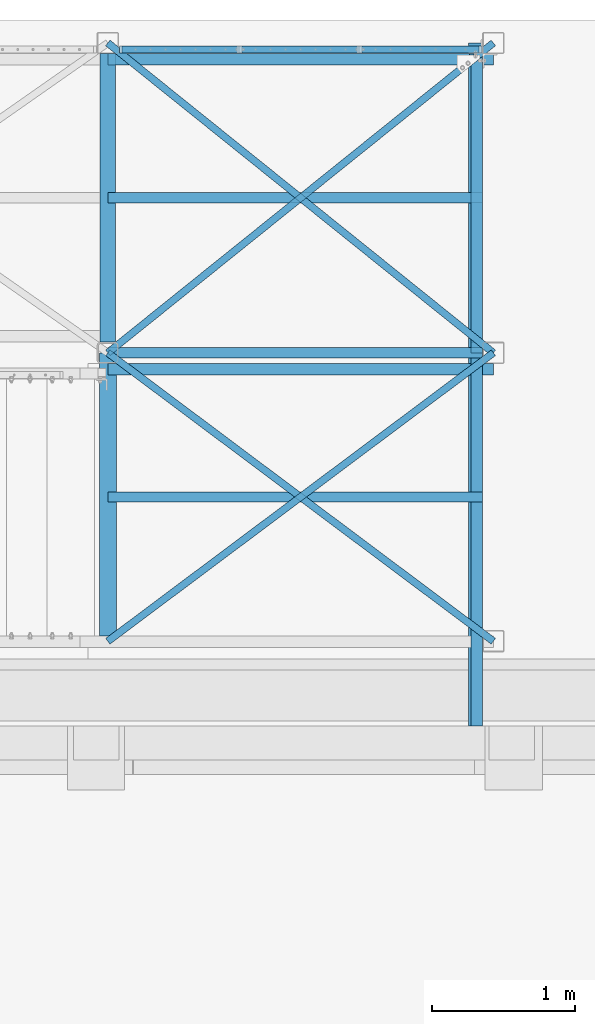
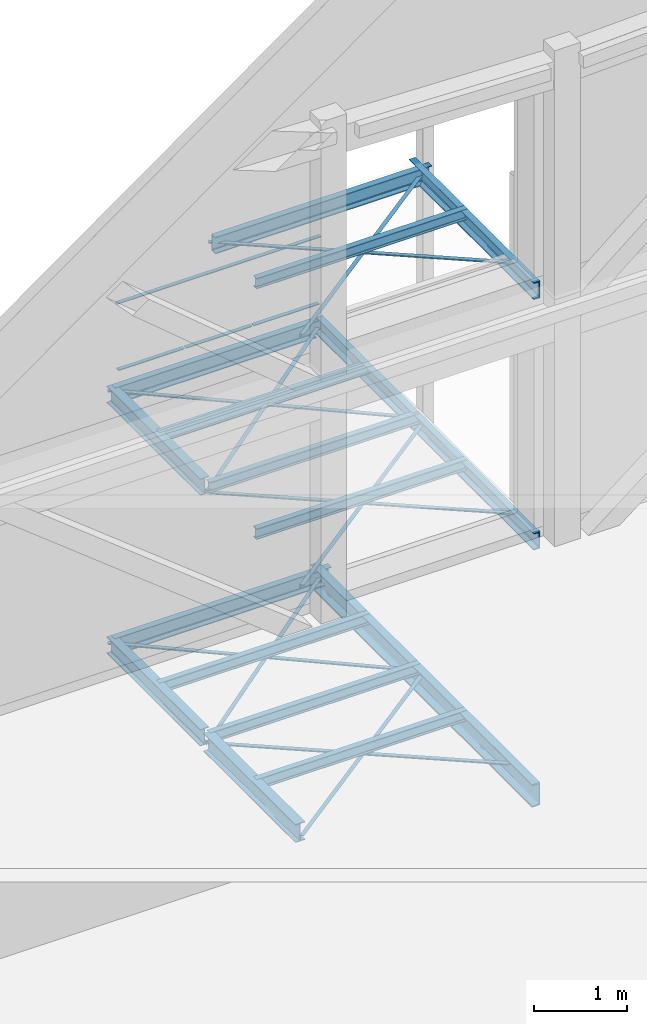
# One storey, part 33 of 78: 30 beams, 29 elements without a shape of their own.
"""IFC2X3 building model written with IfcOpenShell, lengths in millimetres."""

from ifc_helpers import new_model, si_unit, frame, origin_with_axes, origin_2d_with_axis, place, context, subcontext, project, spatial, polyline, rectangle, i_section, l_section, u_section, outline, extrude, boolean, clip, halfspace, material, type_object, element, aggregate, save


model = new_model("IFC2X3")

# Units and contexts
model_context = context("Model", 3, precision=1e-05, world=origin_with_axes())
body_context = subcontext(model_context, "Body", "Model", "MODEL_VIEW")
ifc_project = project(units=[si_unit("LENGTHUNIT", "METRE", prefix="MILLI"), si_unit("AREAUNIT", "SQUARE_METRE"), si_unit("VOLUMEUNIT", "CUBIC_METRE"), si_unit("MASSUNIT", "GRAM", prefix="KILO"), si_unit("TIMEUNIT", "SECOND"), si_unit("PLANEANGLEUNIT", "RADIAN"), si_unit("SOLIDANGLEUNIT", "STERADIAN"), si_unit("THERMODYNAMICTEMPERATUREUNIT", "DEGREE_CELSIUS"), si_unit("LUMINOUSINTENSITYUNIT", "LUMEN")], contexts=[model_context])

# Site, building, storey
site_placement = place(None, origin_with_axes())
site = spatial("IfcSite", under=ifc_project, at=site_placement, Name="Site", CompositionType="ELEMENT")
building_placement = place(site_placement, origin_with_axes())
building = spatial("IfcBuilding", under=site, at=building_placement, Name="Undefined", CompositionType="ELEMENT")
storey_placement = place(building_placement, origin_with_axes())
storey = spatial("IfcBuildingStorey", under=building, at=storey_placement, Name="Undefined", CompositionType="ELEMENT", Elevation=0.0)

# Assembly, beam
assembly_1_placement = place(storey_placement, origin_with_axes())
assembly_1 = element("IfcElementAssembly", 1, at=assembly_1_placement, inside=storey, Name="POUTRE", AssemblyPlace="NOTDEFINED", PredefinedType="RIGID_FRAME")
ifc_material_1 = material(Name="STEEL/S275JR")
beam_type_1 = type_object("IfcBeamType", Name="UPN220", PredefinedType="NOTDEFINED")
beam_1_placement = place(assembly_1_placement, frame((4083.57, 30748.0, 156560.04), z_axis=(0.0, 0.0, 1.0), x_axis=(0.0, -1.0, 0.0)))
beam_1 = element("IfcBeam", 2, at=beam_1_placement, type_object=beam_type_1, material=ifc_material_1, Name="POUTRE", ObjectType="UPN220", context=body_context, shape_type="SweptSolid", body=[
    extrude(u_section(Depth=220.0, FlangeWidth=80.0, WebThickness=9.0, FlangeThickness=12.5, FilletRadius=12.5, EdgeRadius=6.5, FlangeSlope=0.0798299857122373, at=origin_2d_with_axis()), frame((2613.00000000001, 0.0, 0.0), z_axis=(-1.0, 0.0, 0.0), x_axis=(0.0, -1.0, 0.0)), (0.0, 0.0, 1.0), 2613.0),
])
aggregate(assembly_1, [beam_1])

assembly_2_placement = place(storey_placement, origin_with_axes())
assembly_2 = element("IfcElementAssembly", 3, at=assembly_2_placement, inside=storey, Name="POUTRE", AssemblyPlace="NOTDEFINED", PredefinedType="RIGID_FRAME")
beam_2_placement = place(assembly_2_placement, frame((1498.56999999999, 30633.0, 159860.04), z_axis=(0.0, 0.0, 1.0), x_axis=(1.0, 0.0, 0.0)))
beam_2 = element("IfcBeam", 4, at=beam_2_placement, type_object=beam_type_1, material=ifc_material_1, Name="POUTRE", ObjectType="UPN220", context=body_context, shape_type="SweptSolid", body=[
    extrude(u_section(Depth=220.0, FlangeWidth=80.0, WebThickness=9.0, FlangeThickness=12.5, FilletRadius=12.5, EdgeRadius=6.5, FlangeSlope=0.0798299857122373, at=origin_2d_with_axis()), frame((2699.99999999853, 0.0, 0.0), z_axis=(-1.0, 0.0, 0.0), x_axis=(0.0, -1.0, 0.0)), (0.0, 0.0, 1.0), 2700.0),
])
aggregate(assembly_2, [beam_2])

assembly_3_placement = place(storey_placement, origin_with_axes())
assembly_3 = element("IfcElementAssembly", 5, at=assembly_3_placement, inside=storey, Name="POUTRE", AssemblyPlace="NOTDEFINED", PredefinedType="RIGID_FRAME")
beam_3_placement = place(assembly_3_placement, frame((4083.57, 30823.0, 159860.04), z_axis=(0.0, 0.0, 1.0), x_axis=(0.0, -1.0, 0.0)))
beam_3 = element("IfcBeam", 6, at=beam_3_placement, type_object=beam_type_1, material=ifc_material_1, Name="POUTRE", ObjectType="UPN220", context=body_context, shape_type="SweptSolid", body=[
    extrude(u_section(Depth=220.0, FlangeWidth=80.0, WebThickness=9.0, FlangeThickness=12.5, FilletRadius=12.5, EdgeRadius=6.5, FlangeSlope=0.0798299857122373, at=origin_2d_with_axis()), frame((2688.0, 0.0, 0.0), z_axis=(-1.0, 0.0, 0.0), x_axis=(0.0, -1.0, 0.0)), (0.0, 0.0, 1.0), 2688.0),
])
aggregate(assembly_3, [beam_3])

assembly_4_placement = place(storey_placement, origin_with_axes())
assembly_4 = element("IfcElementAssembly", 7, at=assembly_4_placement, inside=storey, Name="POUTRE", AssemblyPlace="NOTDEFINED", PredefinedType="RIGID_FRAME")
beam_4_placement = place(assembly_4_placement, frame((4083.57, 32918.0, 156560.04), z_axis=(0.0, 0.0, 1.0), x_axis=(0.0, -1.0, 0.0)))
beam_4 = element("IfcBeam", 8, at=beam_4_placement, type_object=beam_type_1, material=ifc_material_1, Name="POUTRE", ObjectType="UPN220", context=body_context, shape_type="Clipping", body=[
    clip(extrude(u_section(Depth=220.0, FlangeWidth=80.0, WebThickness=9.0, FlangeThickness=12.5, FilletRadius=12.5, EdgeRadius=6.5, FlangeSlope=0.0798299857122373, at=origin_2d_with_axis()), frame((2169.99999999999, 0.0, 0.0), z_axis=(-1.0, 0.0, 0.0), x_axis=(0.0, -1.0, 0.0)), (0.0, 0.0, 1.0), 2170.0), halfspace(frame((85.0, 40.0, -190.0), z_axis=(-1.0, 0.0, 0.0), x_axis=(0.0, 0.0, 1.0)), False)),
])
aggregate(assembly_4, [beam_4])

assembly_5_placement = place(storey_placement, origin_with_axes())
assembly_5 = element("IfcElementAssembly", 9, at=assembly_5_placement, inside=storey, Name="POUTRE", AssemblyPlace="NOTDEFINED", PredefinedType="RIGID_FRAME")
beam_5_placement = place(assembly_5_placement, frame((1498.57, 32803.0, 156560.04), z_axis=(0.0, 0.0, 1.0), x_axis=(1.0, 0.0, 0.0)))
beam_5 = element("IfcBeam", 10, at=beam_5_placement, type_object=beam_type_1, material=ifc_material_1, Name="POUTRE", ObjectType="UPN220", context=body_context, shape_type="CSG", body=[
    boolean("DIFFERENCE", boolean("DIFFERENCE", boolean("DIFFERENCE", boolean("DIFFERENCE", extrude(u_section(Depth=220.0, FlangeWidth=80.0, WebThickness=9.0, FlangeThickness=12.5, FilletRadius=12.5, EdgeRadius=6.5, FlangeSlope=0.0798299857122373, at=origin_2d_with_axis()), frame((2699.99999999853, 0.0, 0.0), z_axis=(-1.0, 0.0, 0.0), x_axis=(0.0, -1.0, 0.0)), (0.0, 0.0, 1.0), 2700.0), extrude(outline(polyline([(0.0, 0.0), (82.0, 0.0), (82.0, 34.0), (0.0, 34.0), (0.0, 0.0)])), frame((2616.0, 50.0, -86.0), z_axis=(0.0, -1.0, 0.0), x_axis=(-1.0, 0.0, 0.0)), (0.0, 0.0, 1.0), 100.0)), extrude(outline(polyline([(0.0, 0.0), (100.0, 0.0), (99.9999999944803, 76.0000000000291), (2.91038304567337e-11, 76.0000000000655), (0.0, 0.0)])), frame((2515.99999999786, -45.0003378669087, -113.999835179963), z_axis=(-1.18205317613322e-10, 3.2963000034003e-05, 0.99999999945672), x_axis=(0.99999999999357, 3.58599998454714e-06, 0.0)), (0.0, 0.0, 1.0), 25.0)), extrude(outline(polyline([(0.0, 0.0), (82.0, 0.0), (82.0, 34.0), (0.0, 34.0), (0.0, 0.0)])), frame((2616.0, -50.0, 86.0), z_axis=(0.0, 1.0, 0.0), x_axis=(-1.0, 0.0, 0.0)), (0.0, 0.0, 1.0), 100.0)), halfspace(frame((2606.0, 0.0, 1000.0), z_axis=(1.0, 0.0, 0.0), x_axis=(0.0, 1.0, 0.0)), False)),
])
aggregate(assembly_5, [beam_5])

assembly_6_placement = place(storey_placement, origin_with_axes())
assembly_6 = element("IfcElementAssembly", 11, at=assembly_6_placement, inside=storey, Name="STAB", AssemblyPlace="NOTDEFINED", PredefinedType="RIGID_FRAME")
beam_6_placement = place(assembly_6_placement, frame((1498.57, 32803.0, 153260.04), z_axis=(0.0, 0.0, 1.0), x_axis=(1.0, 0.0, 0.0)))
beam_6 = element("IfcBeam", 12, at=beam_6_placement, type_object=beam_type_1, material=ifc_material_1, Name="POUTRE", ObjectType="UPN220", context=body_context, shape_type="SweptSolid", body=[
    extrude(u_section(Depth=220.0, FlangeWidth=80.0, WebThickness=9.0, FlangeThickness=12.5, FilletRadius=12.5, EdgeRadius=6.5, FlangeSlope=0.0798299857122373, at=origin_2d_with_axis()), frame((2699.99999999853, 0.0, 0.0), z_axis=(-1.0, 0.0, 0.0), x_axis=(0.0, -1.0, 0.0)), (0.0, 0.0, 1.0), 2700.0),
])
aggregate(assembly_6, [beam_6])

assembly_7_placement = place(storey_placement, origin_with_axes())
assembly_7 = element("IfcElementAssembly", 13, at=assembly_7_placement, inside=storey, Name="POUTRE", AssemblyPlace="NOTDEFINED", PredefinedType="RIGID_FRAME")
beam_type_2 = type_object("IfcBeamType", Name="UPN300", PredefinedType="NOTDEFINED")
beam_7_placement = place(assembly_7_placement, frame((4073.57, 30748.0, 153220.04), z_axis=(0.0, 0.0, 1.0), x_axis=(0.0, -1.0, 0.0)))
beam_7 = element("IfcBeam", 14, at=beam_7_placement, type_object=beam_type_2, material=ifc_material_1, Name="POUTRE", ObjectType="UPN300", context=body_context, shape_type="SweptSolid", body=[
    extrude(u_section(Depth=300.0, FlangeWidth=100.0, WebThickness=10.0, FlangeThickness=16.0, FilletRadius=16.0, EdgeRadius=8.0, FlangeSlope=0.0798299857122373, at=origin_2d_with_axis()), frame((2613.00000000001, 0.0, 0.0), z_axis=(-1.0, 0.0, 0.0), x_axis=(0.0, -1.0, 0.0)), (0.0, 0.0, 1.0), 2613.0),
])
aggregate(assembly_7, [beam_7])

assembly_8_placement = place(storey_placement, origin_with_axes())
assembly_8 = element("IfcElementAssembly", 15, at=assembly_8_placement, inside=storey, Name="POUTRE", AssemblyPlace="NOTDEFINED", PredefinedType="RIGID_FRAME")
beam_8_placement = place(assembly_8_placement, frame((4073.57, 32918.0, 153220.04), z_axis=(0.0, 0.0, 1.0), x_axis=(0.0, -1.0, 0.0)))
beam_8 = element("IfcBeam", 16, at=beam_8_placement, type_object=beam_type_2, material=ifc_material_1, Name="POUTRE", ObjectType="UPN300", context=body_context, shape_type="SweptSolid", body=[
    extrude(u_section(Depth=300.0, FlangeWidth=100.0, WebThickness=10.0, FlangeThickness=16.0, FilletRadius=16.0, EdgeRadius=8.0, FlangeSlope=0.0798299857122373, at=origin_2d_with_axis()), frame((2169.99999999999, 0.0, 0.0), z_axis=(-1.0, 0.0, 0.0), x_axis=(0.0, -1.0, 0.0)), (0.0, 0.0, 1.0), 2170.0),
])
aggregate(assembly_8, [beam_8])

# Assembly, beams
assembly_9_placement = place(storey_placement, origin_with_axes())
assembly_9 = element("IfcElementAssembly", 17, at=assembly_9_placement, inside=storey, Name="MAIN_COURANTE", AssemblyPlace="NOTDEFINED", PredefinedType="RIGID_FRAME")
ifc_material_2 = material(Name="STEEL/S235JR")
beam_type_3 = type_object("IfcBeamType", Name="PL10*50", PredefinedType="NOTDEFINED")
beam_9_placement = place(assembly_9_placement, frame((1578.57000000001, 32872.9999999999, 156815.04), z_axis=(0.0, -1.0, 0.0), x_axis=(1.0, 0.0, 0.0)))
solid_1 = boolean("DIFFERENCE", boolean("DIFFERENCE", extrude(rectangle(XDim=20.0, YDim=50.0, at=origin_2d_with_axis()), frame((10.0000000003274, 885.0, -2.18278728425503e-10), z_axis=(0.0, -1.0, 0.0), x_axis=(1.0, 0.0, 0.0)), (0.0, 0.0, 1.0), 1190.0), halfspace(frame((10.0000000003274, 875.0, -2.18278728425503e-11), z_axis=(0.0, 1.0, 0.0), x_axis=(0.0, 0.0, -1.0)), False)), halfspace(frame((-999.999999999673, -305.0, -2.18278728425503e-10), z_axis=(0.0, 1.0, 0.0), x_axis=(0.0, 0.0, -1.0)), True))
solid_2 = boolean("DIFFERENCE", boolean("DIFFERENCE", extrude(rectangle(XDim=20.0, YDim=50.0, at=origin_2d_with_axis()), frame((850.000000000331, 885.0, -2.18278728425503e-10), z_axis=(0.0, -1.0, 0.0), x_axis=(1.0, 0.0, 0.0)), (0.0, 0.0, 1.0), 1190.0), halfspace(frame((850.000000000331, 875.0, -2.18278728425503e-11), z_axis=(0.0, 1.0, 0.0), x_axis=(0.0, 0.0, -1.0)), False)), halfspace(frame((-159.999999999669, -305.0, -2.18278728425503e-10), z_axis=(0.0, 1.0, 0.0), x_axis=(0.0, 0.0, -1.0)), True))
solid_3 = boolean("DIFFERENCE", boolean("DIFFERENCE", extrude(rectangle(XDim=20.0, YDim=50.0, at=origin_2d_with_axis()), frame((1690.00000000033, 885.0, -2.25554686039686e-10), z_axis=(0.0, -1.0, 0.0), x_axis=(1.0, 0.0, 0.0)), (0.0, 0.0, 1.0), 1190.0), halfspace(frame((1690.00000000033, 875.0, -3.63797880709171e-11), z_axis=(0.0, 1.0, 0.0), x_axis=(0.0, 0.0, -1.0)), False)), halfspace(frame((680.000000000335, -305.0, -2.25554686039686e-10), z_axis=(0.0, 1.0, 0.0), x_axis=(0.0, 0.0, -1.0)), True))
solid_4 = boolean("DIFFERENCE", extrude(rectangle(XDim=20.0, YDim=50.0, at=origin_2d_with_axis()), frame((2530.00000000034, 885.0, -2.18278728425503e-10), z_axis=(0.0, -1.0, 0.0), x_axis=(1.0, 0.0, 0.0)), (0.0, 0.0, 1.0), 1030.0), halfspace(frame((2530.00000000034, 875.0, -3.63797880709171e-11), z_axis=(0.0, 1.0, 0.0), x_axis=(0.0, 0.0, -1.0)), False))
beam_9 = element("IfcBeam", 18, at=beam_9_placement, type_object=beam_type_3, material=ifc_material_2, Name="LISSE", ObjectType="PL10*50", context=body_context, shape_type="CSG", body=[
    boolean("DIFFERENCE", boolean("DIFFERENCE", boolean("DIFFERENCE", boolean("DIFFERENCE", extrude(rectangle(XDim=10.0, YDim=50.0, at=origin_2d_with_axis()), frame((2540.00000000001, 0.0, 0.0), z_axis=(-1.0, 0.0, 0.0), x_axis=(0.0, -1.0, 0.0)), (0.0, 0.0, 1.0), 2540.0), solid_1), solid_2), solid_3), solid_4),
])
beam_10_placement = place(assembly_9_placement, frame((4118.57, 32872.9999999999, 157695.04), z_axis=(0.0, -1.0, 0.0), x_axis=(-1.0, 0.0, 0.0)))
beam_10 = element("IfcBeam", 19, at=beam_10_placement, type_object=beam_type_3, material=ifc_material_2, Name="MAIN_COURANTE", ObjectType="PL10*50", context=body_context, shape_type="SweptSolid", body=[
    extrude(rectangle(XDim=10.0, YDim=50.0, at=origin_2d_with_axis()), frame((2540.00000000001, 0.0, 0.0), z_axis=(-1.0, 0.0, 0.0), x_axis=(0.0, -1.0, 0.0)), (0.0, 0.0, 1.0), 2540.0),
])
aggregate(assembly_9, [beam_9, beam_10])

# Assembly, beam
assembly_10_placement = place(storey_placement, origin_with_axes())
assembly_10 = element("IfcElementAssembly", 20, at=assembly_10_placement, inside=storey, Name="STAB", AssemblyPlace="NOTDEFINED", PredefinedType="RIGID_FRAME")
beam_type_4 = type_object("IfcBeamType", Name="L50*5", PredefinedType="NOTDEFINED")
beam_11_placement = place(assembly_10_placement, frame((4198.56999999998, 30748.0, 159805.04), z_axis=(0.0, 0.0, -1.0), x_axis=(-0.80071118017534, -0.599050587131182, 0.0)))
beam_11 = element("IfcBeam", 21, at=beam_11_placement, type_object=beam_type_4, material=ifc_material_2, Name="STAB", ObjectType="L50*5", context=body_context, shape_type="SweptSolid", body=[
    extrude(l_section(Depth=50.0, Width=50.0, Thickness=5.0, FilletRadius=7.0, EdgeRadius=3.5, at=origin_2d_with_axis()), frame((3372.00237247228, 1.87183733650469e-13, 0.0), z_axis=(-1.0, 0.0, 0.0), x_axis=(0.0, -1.0, 0.0)), (0.0, 0.0, 1.0), 3372.0),
])
aggregate(assembly_10, [beam_11])

assembly_11_placement = place(storey_placement, origin_with_axes())
assembly_11 = element("IfcElementAssembly", 22, at=assembly_11_placement, inside=storey, Name="STAB", AssemblyPlace="NOTDEFINED", PredefinedType="RIGID_FRAME")
beam_12_placement = place(assembly_11_placement, frame((4198.57000000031, 28727.9999999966, 159805.04), z_axis=(0.0, 0.0, -1.0), x_axis=(-0.800711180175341, 0.599050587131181, 0.0)))
beam_12 = element("IfcBeam", 23, at=beam_12_placement, type_object=beam_type_4, material=ifc_material_2, Name="STAB", ObjectType="L50*5", context=body_context, shape_type="SweptSolid", body=[
    extrude(l_section(Depth=50.0, Width=50.0, Thickness=5.0, FilletRadius=7.0, EdgeRadius=3.5, at=origin_2d_with_axis()), frame((3372.00237247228, 1.87183733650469e-13, 0.0), z_axis=(-1.0, 0.0, 0.0), x_axis=(0.0, -1.0, 0.0)), (0.0, 0.0, 1.0), 3372.0),
])
aggregate(assembly_11, [beam_12])

assembly_12_placement = place(storey_placement, origin_with_axes())
assembly_12 = element("IfcElementAssembly", 24, at=assembly_12_placement, inside=storey, Name="STAB", AssemblyPlace="NOTDEFINED", PredefinedType="RIGID_FRAME")
beam_13_placement = place(assembly_12_placement, frame((4198.56999999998, 30748.0, 156505.04), z_axis=(0.0, 0.0, -1.0), x_axis=(-0.80071118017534, -0.599050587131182, 0.0)))
beam_13 = element("IfcBeam", 25, at=beam_13_placement, type_object=beam_type_4, material=ifc_material_2, Name="STAB", ObjectType="L50*5", context=body_context, shape_type="SweptSolid", body=[
    extrude(l_section(Depth=50.0, Width=50.0, Thickness=5.0, FilletRadius=7.0, EdgeRadius=3.5, at=origin_2d_with_axis()), frame((3372.00237247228, 1.87183733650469e-13, 0.0), z_axis=(-1.0, 0.0, 0.0), x_axis=(0.0, -1.0, 0.0)), (0.0, 0.0, 1.0), 3372.0),
])
aggregate(assembly_12, [beam_13])

assembly_13_placement = place(storey_placement, origin_with_axes())
assembly_13 = element("IfcElementAssembly", 26, at=assembly_13_placement, inside=storey, Name="STAB", AssemblyPlace="NOTDEFINED", PredefinedType="RIGID_FRAME")
beam_14_placement = place(assembly_13_placement, frame((4198.57000000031, 28727.9999999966, 156505.04), z_axis=(0.0, 0.0, -1.0), x_axis=(-0.800711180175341, 0.599050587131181, 0.0)))
beam_14 = element("IfcBeam", 27, at=beam_14_placement, type_object=beam_type_4, material=ifc_material_2, Name="STAB", ObjectType="L50*5", context=body_context, shape_type="SweptSolid", body=[
    extrude(l_section(Depth=50.0, Width=50.0, Thickness=5.0, FilletRadius=7.0, EdgeRadius=3.5, at=origin_2d_with_axis()), frame((3372.00237247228, 1.87183733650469e-13, 0.0), z_axis=(-1.0, 0.0, 0.0), x_axis=(0.0, -1.0, 0.0)), (0.0, 0.0, 1.0), 3372.0),
])
aggregate(assembly_13, [beam_14])

assembly_14_placement = place(storey_placement, origin_with_axes())
assembly_14 = element("IfcElementAssembly", 28, at=assembly_14_placement, inside=storey, Name="STAB", AssemblyPlace="NOTDEFINED", PredefinedType="RIGID_FRAME")
beam_15_placement = place(assembly_14_placement, frame((4198.57000000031, 30747.9999999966, 156532.04), z_axis=(0.0, 0.0, -1.0), x_axis=(-0.779458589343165, 0.626453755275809, 0.0)))
beam_15 = element("IfcBeam", 29, at=beam_15_placement, type_object=beam_type_4, material=ifc_material_2, Name="STAB", ObjectType="L50*5", context=body_context, shape_type="SweptSolid", body=[
    extrude(l_section(Depth=50.0, Width=50.0, Thickness=5.0, FilletRadius=7.0, EdgeRadius=3.5, at=origin_2d_with_axis()), frame((3463.94284017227, 0.0, 2.91038304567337e-11), z_axis=(-1.0, 0.0, 0.0), x_axis=(0.0, -1.0, 0.0)), (0.0, 0.0, 1.0), 3463.94),
])
aggregate(assembly_14, [beam_15])

assembly_15_placement = place(storey_placement, origin_with_axes())
assembly_15 = element("IfcElementAssembly", 30, at=assembly_15_placement, inside=storey, Name="STAB", AssemblyPlace="NOTDEFINED", PredefinedType="RIGID_FRAME")
beam_16_placement = place(assembly_15_placement, frame((4198.56999999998, 32918.0, 156532.04), z_axis=(0.0, 0.0, -1.0), x_axis=(-0.779458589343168, -0.626453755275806, 0.0)))
beam_16 = element("IfcBeam", 31, at=beam_16_placement, type_object=beam_type_4, material=ifc_material_2, Name="STAB", ObjectType="L50*5", context=body_context, shape_type="Clipping", body=[
    clip(extrude(l_section(Depth=50.0, Width=50.0, Thickness=5.0, FilletRadius=7.0, EdgeRadius=3.5, at=origin_2d_with_axis()), frame((3463.94284017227, 0.0, 2.91038304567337e-11), z_axis=(-1.0, 0.0, 0.0), x_axis=(0.0, -1.0, 0.0)), (0.0, 0.0, 1.0), 3463.94), halfspace(frame((197.11984116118, -1.09139364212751e-11, -25.0), z_axis=(1.0, 0.0, 0.0), x_axis=(0.0, 1.0, 0.0)), True)),
])
aggregate(assembly_15, [beam_16])

assembly_16_placement = place(storey_placement, origin_with_axes())
assembly_16 = element("IfcElementAssembly", 32, at=assembly_16_placement, inside=storey, Name="STAB", AssemblyPlace="NOTDEFINED", PredefinedType="RIGID_FRAME")
beam_17_placement = place(assembly_16_placement, frame((4198.56999999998, 30748.0, 153205.04), z_axis=(0.0, 0.0, -1.0), x_axis=(-0.80071118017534, -0.599050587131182, 0.0)))
beam_17 = element("IfcBeam", 33, at=beam_17_placement, type_object=beam_type_4, material=ifc_material_2, Name="STAB", ObjectType="L50*5", context=body_context, shape_type="SweptSolid", body=[
    extrude(l_section(Depth=50.0, Width=50.0, Thickness=5.0, FilletRadius=7.0, EdgeRadius=3.5, at=origin_2d_with_axis()), frame((3372.00237247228, 1.87183733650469e-13, 0.0), z_axis=(-1.0, 0.0, 0.0), x_axis=(0.0, -1.0, 0.0)), (0.0, 0.0, 1.0), 3372.0),
])
aggregate(assembly_16, [beam_17])

assembly_17_placement = place(storey_placement, origin_with_axes())
assembly_17 = element("IfcElementAssembly", 34, at=assembly_17_placement, inside=storey, Name="STAB", AssemblyPlace="NOTDEFINED", PredefinedType="RIGID_FRAME")
beam_18_placement = place(assembly_17_placement, frame((4198.57000000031, 28727.9999999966, 153205.04), z_axis=(0.0, 0.0, -1.0), x_axis=(-0.800711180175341, 0.599050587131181, 0.0)))
beam_18 = element("IfcBeam", 35, at=beam_18_placement, type_object=beam_type_4, material=ifc_material_2, Name="STAB", ObjectType="L50*5", context=body_context, shape_type="SweptSolid", body=[
    extrude(l_section(Depth=50.0, Width=50.0, Thickness=5.0, FilletRadius=7.0, EdgeRadius=3.5, at=origin_2d_with_axis()), frame((3372.00237247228, 1.87183733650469e-13, 0.0), z_axis=(-1.0, 0.0, 0.0), x_axis=(0.0, -1.0, 0.0)), (0.0, 0.0, 1.0), 3372.0),
])
aggregate(assembly_17, [beam_18])

assembly_18_placement = place(storey_placement, origin_with_axes())
assembly_18 = element("IfcElementAssembly", 36, at=assembly_18_placement, inside=storey, Name="STAB", AssemblyPlace="NOTDEFINED", PredefinedType="RIGID_FRAME")
beam_19_placement = place(assembly_18_placement, frame((4198.56999999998, 30748.0, 153205.04), z_axis=(0.0, 0.0, -1.0), x_axis=(-0.779458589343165, 0.626453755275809, 0.0)))
beam_19 = element("IfcBeam", 37, at=beam_19_placement, type_object=beam_type_4, material=ifc_material_2, Name="STAB", ObjectType="L50*5", context=body_context, shape_type="SweptSolid", body=[
    extrude(l_section(Depth=50.0, Width=50.0, Thickness=5.0, FilletRadius=7.0, EdgeRadius=3.5, at=origin_2d_with_axis()), frame((3463.94284017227, 0.0, 2.91038304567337e-11), z_axis=(-1.0, 0.0, 0.0), x_axis=(0.0, -1.0, 0.0)), (0.0, 0.0, 1.0), 3463.94),
])
aggregate(assembly_18, [beam_19])

assembly_19_placement = place(storey_placement, origin_with_axes())
assembly_19 = element("IfcElementAssembly", 38, at=assembly_19_placement, inside=storey, Name="STAB", AssemblyPlace="NOTDEFINED", PredefinedType="RIGID_FRAME")
beam_20_placement = place(assembly_19_placement, frame((4198.56999999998, 32918.0, 153205.04), z_axis=(0.0, 0.0, -1.0), x_axis=(-0.779458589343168, -0.626453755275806, 0.0)))
beam_20 = element("IfcBeam", 39, at=beam_20_placement, type_object=beam_type_4, material=ifc_material_2, Name="STAB", ObjectType="L50*5", context=body_context, shape_type="SweptSolid", body=[
    extrude(l_section(Depth=50.0, Width=50.0, Thickness=5.0, FilletRadius=7.0, EdgeRadius=3.5, at=origin_2d_with_axis()), frame((3463.94284017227, 0.0, 2.91038304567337e-11), z_axis=(-1.0, 0.0, 0.0), x_axis=(0.0, -1.0, 0.0)), (0.0, 0.0, 1.0), 3463.94),
])
aggregate(assembly_19, [beam_20])

assembly_20_placement = place(storey_placement, origin_with_axes())
assembly_20 = element("IfcElementAssembly", 40, at=assembly_20_placement, inside=storey, AssemblyPlace="NOTDEFINED", PredefinedType="RIGID_FRAME")
beam_type_5 = type_object("IfcBeamType", Name="IPE140", PredefinedType="NOTDEFINED")
beam_21_placement = place(assembly_20_placement, frame((4123.57, 29738.0, 159900.04), z_axis=(0.0, 0.0, 1.0), x_axis=(-1.0, 0.0, 0.0)))
beam_21 = element("IfcBeam", 41, at=beam_21_placement, type_object=beam_type_5, material=ifc_material_1, Name="SOLIVE", ObjectType="IPE140", context=body_context, shape_type="SweptSolid", body=[
    extrude(i_section(OverallWidth=73.0, OverallDepth=140.0, WebThickness=4.699999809, FlangeThickness=6.900000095, FilletRadius=7.0, at=origin_2d_with_axis()), frame((2625.0, 0.0, 0.0), z_axis=(-1.0, 0.0, 0.0), x_axis=(0.0, -1.0, 0.0)), (0.0, 0.0, 1.0), 2625.0),
])
aggregate(assembly_20, [beam_21])

assembly_21_placement = place(storey_placement, origin_with_axes())
assembly_21 = element("IfcElementAssembly", 42, at=assembly_21_placement, inside=storey, AssemblyPlace="NOTDEFINED", PredefinedType="RIGID_FRAME")
beam_22_placement = place(assembly_21_placement, frame((4123.57, 29738.0, 156600.04), z_axis=(0.0, 0.0, 1.0), x_axis=(-1.0, 0.0, 0.0)))
beam_22 = element("IfcBeam", 43, at=beam_22_placement, type_object=beam_type_5, material=ifc_material_1, Name="SOLIVE", ObjectType="IPE140", context=body_context, shape_type="SweptSolid", body=[
    extrude(i_section(OverallWidth=73.0, OverallDepth=140.0, WebThickness=4.699999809, FlangeThickness=6.900000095, FilletRadius=7.0, at=origin_2d_with_axis()), frame((2625.0, 0.0, 0.0), z_axis=(-1.0, 0.0, 0.0), x_axis=(0.0, -1.0, 0.0)), (0.0, 0.0, 1.0), 2625.0),
])
aggregate(assembly_21, [beam_22])

assembly_22_placement = place(storey_placement, origin_with_axes())
assembly_22 = element("IfcElementAssembly", 44, at=assembly_22_placement, inside=storey, Name="POUTRE", AssemblyPlace="NOTDEFINED", PredefinedType="RIGID_FRAME")
beam_23_placement = place(assembly_22_placement, frame((1498.57, 30748.0, 156600.04), z_axis=(0.0, 0.0, 1.0), x_axis=(1.0, 0.0, 0.0)))
beam_23 = element("IfcBeam", 45, at=beam_23_placement, type_object=beam_type_5, material=ifc_material_1, Name="POUTRE", ObjectType="IPE140", context=body_context, shape_type="SweptSolid", body=[
    extrude(i_section(OverallWidth=73.0, OverallDepth=140.0, WebThickness=4.699999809, FlangeThickness=6.900000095, FilletRadius=7.0, at=origin_2d_with_axis()), frame((2625.0, 0.0, 0.0), z_axis=(-1.0, 0.0, 0.0), x_axis=(0.0, -1.0, 0.0)), (0.0, 0.0, 1.0), 2625.0),
])
aggregate(assembly_22, [beam_23])

assembly_23_placement = place(storey_placement, origin_with_axes())
assembly_23 = element("IfcElementAssembly", 46, at=assembly_23_placement, inside=storey, Name="POUTRE", AssemblyPlace="NOTDEFINED", PredefinedType="RIGID_FRAME")
beam_24_placement = place(assembly_23_placement, frame((4123.57, 31833.0, 156600.04), z_axis=(0.0, 0.0, 1.0), x_axis=(-1.0, 0.0, 0.0)))
beam_24 = element("IfcBeam", 47, at=beam_24_placement, type_object=beam_type_5, material=ifc_material_1, Name="POUTRE", ObjectType="IPE140", context=body_context, shape_type="SweptSolid", body=[
    extrude(i_section(OverallWidth=73.0, OverallDepth=140.0, WebThickness=4.699999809, FlangeThickness=6.900000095, FilletRadius=7.0, at=origin_2d_with_axis()), frame((2625.0, 0.0, 0.0), z_axis=(-1.0, 0.0, 0.0), x_axis=(0.0, -1.0, 0.0)), (0.0, 0.0, 1.0), 2625.0),
])
aggregate(assembly_23, [beam_24])

assembly_24_placement = place(storey_placement, origin_with_axes())
assembly_24 = element("IfcElementAssembly", 48, at=assembly_24_placement, inside=storey, AssemblyPlace="NOTDEFINED", PredefinedType="RIGID_FRAME")
beam_25_placement = place(assembly_24_placement, frame((4123.57, 29738.0, 153300.04), z_axis=(0.0, 0.0, 1.0), x_axis=(-1.0, 0.0, 0.0)))
beam_25 = element("IfcBeam", 49, at=beam_25_placement, type_object=beam_type_5, material=ifc_material_1, Name="SOLIVE", ObjectType="IPE140", context=body_context, shape_type="SweptSolid", body=[
    extrude(i_section(OverallWidth=73.0, OverallDepth=140.0, WebThickness=4.699999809, FlangeThickness=6.900000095, FilletRadius=7.0, at=origin_2d_with_axis()), frame((2625.0, 0.0, 0.0), z_axis=(-1.0, 0.0, 0.0), x_axis=(0.0, -1.0, 0.0)), (0.0, 0.0, 1.0), 2625.0),
])
aggregate(assembly_24, [beam_25])

assembly_25_placement = place(storey_placement, origin_with_axes())
assembly_25 = element("IfcElementAssembly", 50, at=assembly_25_placement, inside=storey, Name="POUTRE", AssemblyPlace="NOTDEFINED", PredefinedType="RIGID_FRAME")
beam_26_placement = place(assembly_25_placement, frame((1498.57, 30748.0, 153300.04), z_axis=(0.0, 0.0, 1.0), x_axis=(1.0, 0.0, 0.0)))
beam_26 = element("IfcBeam", 51, at=beam_26_placement, type_object=beam_type_5, material=ifc_material_1, Name="POUTRE", ObjectType="IPE140", context=body_context, shape_type="SweptSolid", body=[
    extrude(i_section(OverallWidth=73.0, OverallDepth=140.0, WebThickness=4.699999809, FlangeThickness=6.900000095, FilletRadius=7.0, at=origin_2d_with_axis()), frame((2625.0, 0.0, 0.0), z_axis=(-1.0, 0.0, 0.0), x_axis=(0.0, -1.0, 0.0)), (0.0, 0.0, 1.0), 2625.0),
])
aggregate(assembly_25, [beam_26])

assembly_26_placement = place(storey_placement, origin_with_axes())
assembly_26 = element("IfcElementAssembly", 52, at=assembly_26_placement, inside=storey, Name="POUTRE", AssemblyPlace="NOTDEFINED", PredefinedType="RIGID_FRAME")
beam_27_placement = place(assembly_26_placement, frame((4123.57, 31833.0, 153300.04), z_axis=(0.0, 0.0, 1.0), x_axis=(-1.0, 0.0, 0.0)))
beam_27 = element("IfcBeam", 53, at=beam_27_placement, type_object=beam_type_5, material=ifc_material_1, Name="POUTRE", ObjectType="IPE140", context=body_context, shape_type="SweptSolid", body=[
    extrude(i_section(OverallWidth=73.0, OverallDepth=140.0, WebThickness=4.699999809, FlangeThickness=6.900000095, FilletRadius=7.0, at=origin_2d_with_axis()), frame((2625.0, 0.0, 0.0), z_axis=(-1.0, 0.0, 0.0), x_axis=(0.0, -1.0, 0.0)), (0.0, 0.0, 1.0), 2625.0),
])
aggregate(assembly_26, [beam_27])

assembly_27_placement = place(storey_placement, origin_with_axes())
assembly_27 = element("IfcElementAssembly", 54, at=assembly_27_placement, inside=storey, Name="CONSOLE", AssemblyPlace="NOTDEFINED", PredefinedType="RIGID_FRAME")
beam_type_6 = type_object("IfcBeamType", Name="IPE240", PredefinedType="NOTDEFINED")
beam_28_placement = place(assembly_27_placement, frame((1498.57, 30748.0, 153250.04), z_axis=(0.0, 0.0, 1.0), x_axis=(0.0, -1.0, 0.0)))
beam_28 = element("IfcBeam", 55, at=beam_28_placement, type_object=beam_type_6, material=ifc_material_1, Name="CONSOLE", ObjectType="IPE240", context=body_context, shape_type="SweptSolid", body=[
    extrude(i_section(OverallWidth=120.0, OverallDepth=240.0, WebThickness=6.199999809, FlangeThickness=9.800000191, FilletRadius=15.0, at=origin_2d_with_axis()), frame((1985.0, 0.0, 0.0), z_axis=(-1.0, 0.0, 0.0), x_axis=(0.0, -1.0, 0.0)), (0.0, 0.0, 1.0), 1985.0),
])
aggregate(assembly_27, [beam_28])

assembly_28_placement = place(storey_placement, origin_with_axes())
assembly_28 = element("IfcElementAssembly", 56, at=assembly_28_placement, inside=storey, Name="POUTRE", AssemblyPlace="NOTDEFINED", PredefinedType="RIGID_FRAME")
beam_type_7 = type_object("IfcBeamType", Name="IPE220", PredefinedType="NOTDEFINED")
beam_29_placement = place(assembly_28_placement, frame((1498.57, 32843.0, 156560.04), z_axis=(0.0, 0.0, 1.0), x_axis=(0.0, -1.0, 0.0)))
beam_29 = element("IfcBeam", 57, at=beam_29_placement, type_object=beam_type_7, material=ifc_material_1, Name="POUTRE", ObjectType="IPE220", context=body_context, shape_type="SweptSolid", body=[
    extrude(i_section(OverallWidth=110.0, OverallDepth=220.0, WebThickness=5.900000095, FlangeThickness=9.199999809, FilletRadius=12.0, at=origin_2d_with_axis()), frame((2020.0, 0.0, 0.0), z_axis=(-1.0, 0.0, 0.0), x_axis=(0.0, -1.0, 0.0)), (0.0, 0.0, 1.0), 2020.0),
])
aggregate(assembly_28, [beam_29])

assembly_29_placement = place(storey_placement, origin_with_axes())
assembly_29 = element("IfcElementAssembly", 58, at=assembly_29_placement, inside=storey, Name="POUTRE", AssemblyPlace="NOTDEFINED", PredefinedType="RIGID_FRAME")
beam_30_placement = place(assembly_29_placement, frame((1498.57, 32843.0, 153260.04), z_axis=(0.0, 0.0, 1.0), x_axis=(0.0, -1.0, 0.0)))
beam_30 = element("IfcBeam", 59, at=beam_30_placement, type_object=beam_type_7, material=ifc_material_1, Name="POUTRE", ObjectType="IPE220", context=body_context, shape_type="SweptSolid", body=[
    extrude(i_section(OverallWidth=110.0, OverallDepth=220.0, WebThickness=5.900000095, FlangeThickness=9.199999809, FilletRadius=12.0, at=origin_2d_with_axis()), frame((2020.0, 0.0, 0.0), z_axis=(-1.0, 0.0, 0.0), x_axis=(0.0, -1.0, 0.0)), (0.0, 0.0, 1.0), 2020.0),
])
aggregate(assembly_29, [beam_30])

save(model, "model.ifc")
